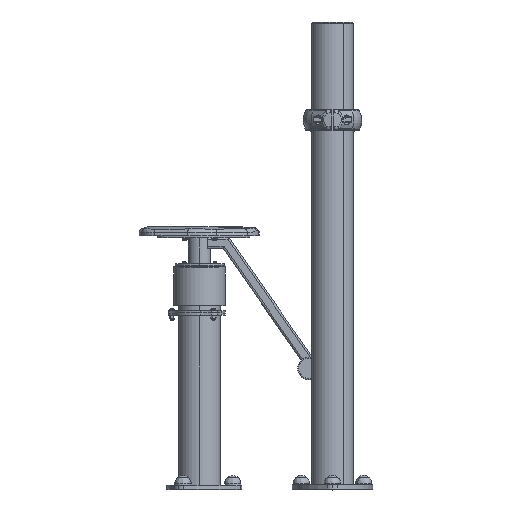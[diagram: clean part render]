
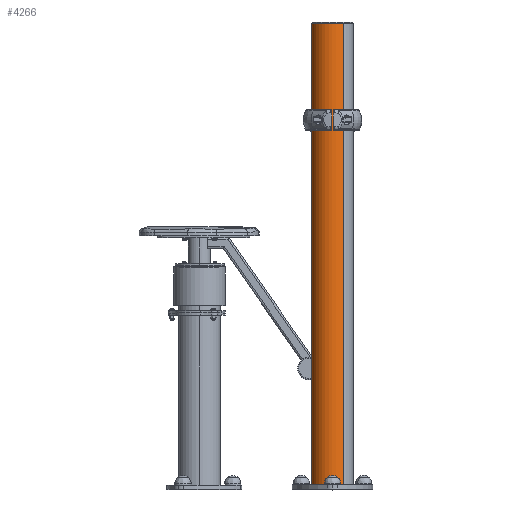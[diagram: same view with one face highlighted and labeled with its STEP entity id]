
A CAD part, top view. The second image highlights one B-rep face of the part: STEP entity #4266.
In plain terms, the highlighted cylindrical face has radius 57.15 mm (diameter 114.3 mm), a partial arc.
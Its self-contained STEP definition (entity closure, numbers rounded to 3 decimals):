
#685 = CARTESIAN_POINT ( 'NONE',  ( -280., 10., 650. ) ) ;
#893 = VERTEX_POINT ( 'NONE', #24527 ) ;
#1172 = AXIS2_PLACEMENT_3D ( 'NONE', #32661, #7812, #25760 ) ;
#1657 = VERTEX_POINT ( 'NONE', #30964 ) ;
#2075 = EDGE_CURVE ( 'NONE', #19074, #25386, #35764, .T. ) ;
#2317 = ORIENTED_EDGE ( 'NONE', *, *, #2075, .T. ) ;
#4266 = ADVANCED_FACE ( 'NONE', ( #14981 ), #30316, .T. ) ;
#4764 = ORIENTED_EDGE ( 'NONE', *, *, #13543, .F. ) ;
#5781 = LINE ( 'NONE', #24531, #36455 ) ;
#6683 = ORIENTED_EDGE ( 'NONE', *, *, #26076, .F. ) ;
#7812 = DIRECTION ( 'NONE',  ( 0., -1., 0. ) ) ;
#9523 = CIRCLE ( 'NONE', #1172, 57.15 ) ;
#12826 = CARTESIAN_POINT ( 'NONE',  ( -251.425, 1260., 699.493 ) ) ;
#13004 = DIRECTION ( 'NONE',  ( 0.5, 0., 0.866 ) ) ;
#13543 = EDGE_CURVE ( 'NONE', #1657, #893, #5781, .T. ) ;
#14684 = CARTESIAN_POINT ( 'NONE',  ( -251.425, 10., 699.493 ) ) ;
#14981 = FACE_OUTER_BOUND ( 'NONE', #18268, .T. ) ;
#15685 = CARTESIAN_POINT ( 'NONE',  ( -251.425, 10., 699.493 ) ) ;
#17320 = EDGE_CURVE ( 'NONE', #25386, #893, #9523, .T. ) ;
#18011 = DIRECTION ( 'NONE',  ( 0., 1., 0. ) ) ;
#18097 = DIRECTION ( 'NONE',  ( 0., 1., 0. ) ) ;
#18268 = EDGE_LOOP ( 'NONE', ( #6683, #2317, #38466, #4764 ) ) ;
#18468 = CIRCLE ( 'NONE', #35960, 57.15 ) ;
#19074 = VERTEX_POINT ( 'NONE', #15685 ) ;
#22848 = DIRECTION ( 'NONE',  ( 0., -1., 0. ) ) ;
#23334 = AXIS2_PLACEMENT_3D ( 'NONE', #30725, #18011, #33973 ) ;
#24148 = DIRECTION ( 'NONE',  ( 0., 1., 0. ) ) ;
#24527 = CARTESIAN_POINT ( 'NONE',  ( -308.575, 1260., 600.507 ) ) ;
#24531 = CARTESIAN_POINT ( 'NONE',  ( -308.575, 10., 600.507 ) ) ;
#25386 = VERTEX_POINT ( 'NONE', #12826 ) ;
#25760 = DIRECTION ( 'NONE',  ( 0.5, 0., 0.866 ) ) ;
#26076 = EDGE_CURVE ( 'NONE', #19074, #1657, #18468, .T. ) ;
#30316 = CYLINDRICAL_SURFACE ( 'NONE', #23334, 57.15 ) ;
#30725 = CARTESIAN_POINT ( 'NONE',  ( -280., 10., 650. ) ) ;
#30964 = CARTESIAN_POINT ( 'NONE',  ( -308.575, 10., 600.507 ) ) ;
#32661 = CARTESIAN_POINT ( 'NONE',  ( -280., 1260., 650. ) ) ;
#33973 = DIRECTION ( 'NONE',  ( -0.5, 0., -0.866 ) ) ;
#35764 = LINE ( 'NONE', #14684, #38085 ) ;
#35960 = AXIS2_PLACEMENT_3D ( 'NONE', #685, #22848, #13004 ) ;
#36455 = VECTOR ( 'NONE', #18097, 1000. ) ;
#38085 = VECTOR ( 'NONE', #24148, 1000. ) ;
#38466 = ORIENTED_EDGE ( 'NONE', *, *, #17320, .T. ) ;
